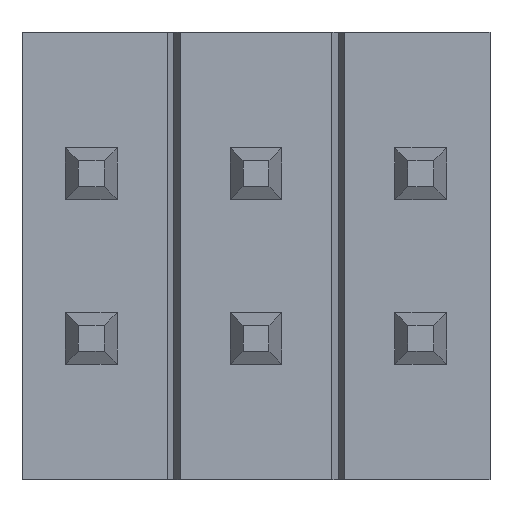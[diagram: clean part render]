
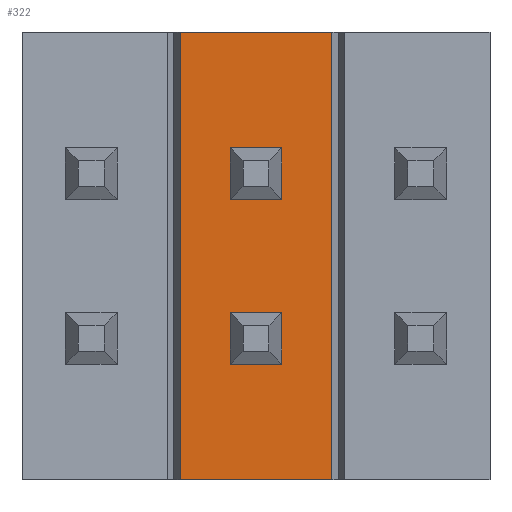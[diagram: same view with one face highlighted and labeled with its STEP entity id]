
A CAD part, front view. The second image highlights one B-rep face of the part: STEP entity #322.
In plain terms, the highlighted planar face has unit normal (0, -1, 0).
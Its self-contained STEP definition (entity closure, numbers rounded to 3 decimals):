
#77 = EDGE_CURVE ( 'NONE', #395, #405, #678, .T. ) ;
#108 = EDGE_CURVE ( 'NONE', #420, #438, #229, .T. ) ;
#116 = EDGE_CURVE ( 'NONE', #405, #420, #234, .T. ) ;
#118 = EDGE_CURVE ( 'NONE', #438, #395, #184, .T. ) ;
#142 = CARTESIAN_POINT ( 'NONE',  ( 1.855, -0.5, -1.725 ) ) ;
#162 = DIRECTION ( 'NONE',  ( -1., 0., 0. ) ) ;
#164 = CARTESIAN_POINT ( 'NONE',  ( 0.685, -0.5, -1.725 ) ) ;
#172 = DIRECTION ( 'NONE',  ( 0., 0., 1. ) ) ;
#179 = DIRECTION ( 'NONE',  ( 0., 0., -1. ) ) ;
#184 = LINE ( 'NONE', #227, #733 ) ;
#227 = CARTESIAN_POINT ( 'NONE',  ( 0.685, -0.5, -1.725 ) ) ;
#229 = LINE ( 'NONE', #164, #764 ) ;
#234 = LINE ( 'NONE', #142, #771 ) ;
#322 = ADVANCED_FACE ( 'NONE', ( #1440 ), #1426, .F. ) ;
#339 = EDGE_LOOP ( 'NONE', ( #472, #474, #416, #1047 ) ) ;
#395 = VERTEX_POINT ( 'NONE', #1551 ) ;
#405 = VERTEX_POINT ( 'NONE', #1555 ) ;
#416 = ORIENTED_EDGE ( 'NONE', *, *, #108, .F. ) ;
#420 = VERTEX_POINT ( 'NONE', #1563 ) ;
#438 = VERTEX_POINT ( 'NONE', #1566 ) ;
#472 = ORIENTED_EDGE ( 'NONE', *, *, #77, .F. ) ;
#474 = ORIENTED_EDGE ( 'NONE', *, *, #118, .F. ) ;
#519 = AXIS2_PLACEMENT_3D ( 'NONE', #1450, #1451, #1452 ) ;
#675 = CARTESIAN_POINT ( 'NONE',  ( 0.685, -0.5, 1.725 ) ) ;
#678 = LINE ( 'NONE', #675, #1633 ) ;
#703 = DIRECTION ( 'NONE',  ( 1., 0., 0. ) ) ;
#733 = VECTOR ( 'NONE', #172, 1000. ) ;
#764 = VECTOR ( 'NONE', #162, 1000. ) ;
#771 = VECTOR ( 'NONE', #179, 1000. ) ;
#1047 = ORIENTED_EDGE ( 'NONE', *, *, #116, .F. ) ;
#1426 = PLANE ( 'NONE',  #519 ) ;
#1440 = FACE_OUTER_BOUND ( 'NONE', #339, .T. ) ;
#1450 = CARTESIAN_POINT ( 'NONE',  ( 0.685, -0.5, -1.725 ) ) ;
#1451 = DIRECTION ( 'NONE',  ( 0., 1., 0. ) ) ;
#1452 = DIRECTION ( 'NONE',  ( 0., 0., 1. ) ) ;
#1551 = CARTESIAN_POINT ( 'NONE',  ( 0.685, -0.5, 1.725 ) ) ;
#1555 = CARTESIAN_POINT ( 'NONE',  ( 1.855, -0.5, 1.725 ) ) ;
#1563 = CARTESIAN_POINT ( 'NONE',  ( 1.855, -0.5, -1.725 ) ) ;
#1566 = CARTESIAN_POINT ( 'NONE',  ( 0.685, -0.5, -1.725 ) ) ;
#1633 = VECTOR ( 'NONE', #703, 1000. ) ;
